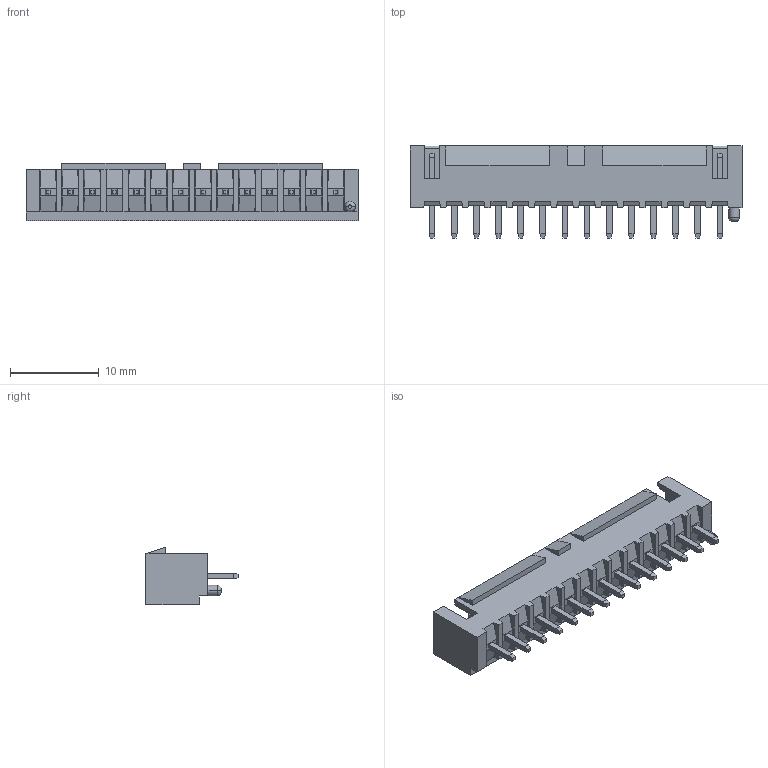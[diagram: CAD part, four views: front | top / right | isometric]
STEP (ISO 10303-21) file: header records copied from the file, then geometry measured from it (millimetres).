
FILE_DESCRIPTION(('CATIA V5 STEP Exchange'),'2;1');
FILE_NAME('F:\黄富鸿\条形连接器\2.50系列\02A--XHB\NAS\HC-XHB-14AS-05（2.50 单排 带扣 直针 带柱-HCTL）.stp','2025-12-01T08:13:59+00:00',('none'),('none'),'CATIA Version 5 Release 20 GA (IN-10)','CATIA V5 STEP AP203','none');
FILE_SCHEMA(('CONFIG_CONTROL_DESIGN'));
Length unit declared in the file: millimetre
Products named in the file (1): Part4
Bounding box: 37.5 x 10.4 x 6.5 mm (x, y, z)
Volume: 728.7 mm3; surface area: 1851.5 mm2
Topology: 15 solids, 15 shells, 379 faces, 922 edges, 573 vertices
Faces by surface type: plane 375, cylinder 2, revolution 2
Entity records: 9712 total; most frequent: ORIENTED_EDGE 1844, CARTESIAN_POINT 1811, DIRECTION 1182, EDGE_CURVE 922, VECTOR 797, LINE 797, VERTEX_POINT 573, EDGE_LOOP 408
